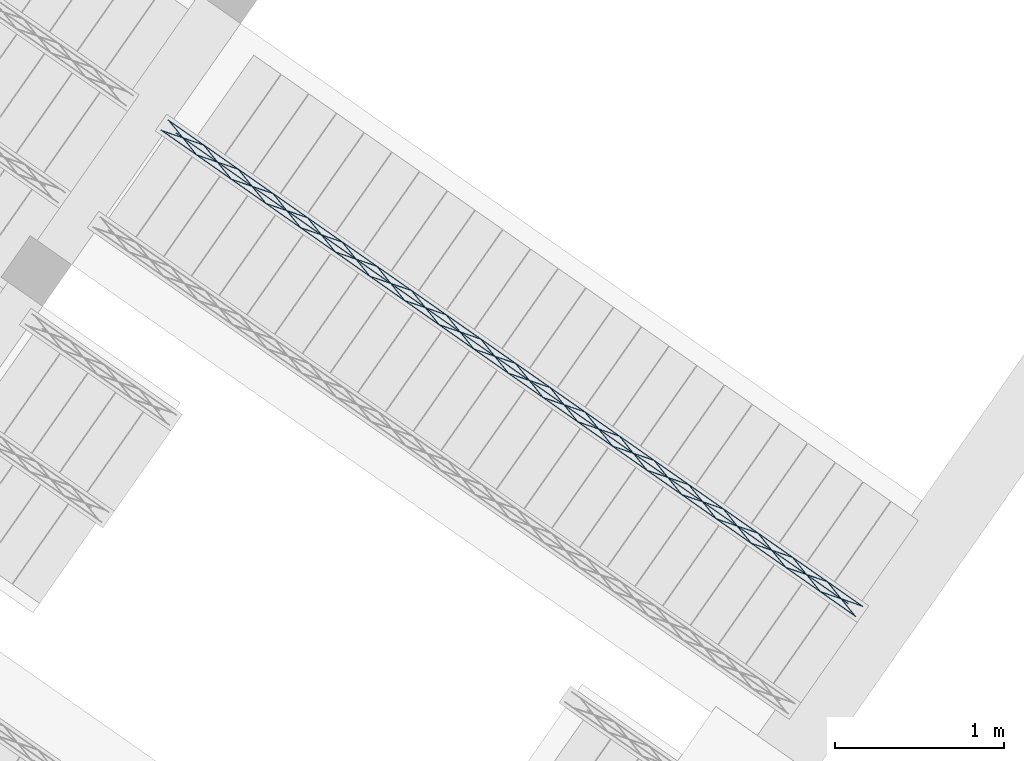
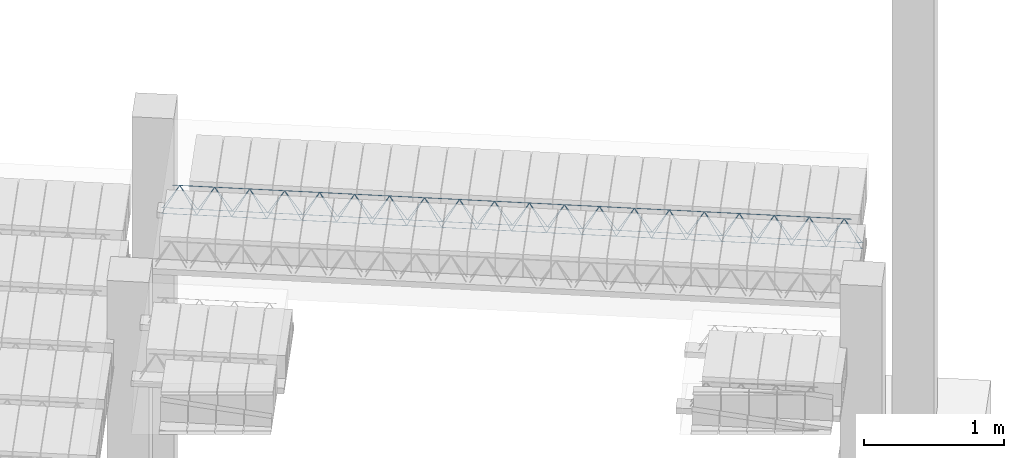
# One storey, part 48 of 80: 1 member.
"""IFC2X3 building model written with IfcOpenShell, lengths in metres."""

from ifc_helpers import new_model, entity, si_unit, converted_unit, derived_unit, direction, frame, origin, origin_2d_with_axis, place, context, subcontext, project, spatial, circle, extrude, type_object, element, save


model = new_model("IFC2X3")

# Units and contexts
model_context = context("Model", 3, precision=1e-05, world=origin(), true_north=direction((6.123031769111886e-17, 1.0)))
body_context = subcontext(model_context, "Body", "Model", "MODEL_VIEW")
ifc_project = project(units=[si_unit("LENGTHUNIT", "METRE"), si_unit("AREAUNIT", "SQUARE_METRE"), si_unit("VOLUMEUNIT", "CUBIC_METRE"), converted_unit("PLANEANGLEUNIT", "DEGREE", entity("IfcPlaneAngleMeasure", 0.017453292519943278), si_unit("PLANEANGLEUNIT", "RADIAN"), dimensions=[0, 0, 0, 0, 0, 0, 0]), si_unit("MASSUNIT", "GRAM", prefix="KILO"), derived_unit("MASSDENSITYUNIT", [(si_unit("MASSUNIT", "GRAM", prefix="KILO"), 1), (si_unit("LENGTHUNIT", "METRE"), -3)]), derived_unit("IONCONCENTRATIONUNIT", [(si_unit("MASSUNIT", "GRAM", prefix="KILO"), 1), (si_unit("LENGTHUNIT", "METRE"), -3)]), derived_unit("MOMENTOFINERTIAUNIT", [(si_unit("LENGTHUNIT", "METRE"), 4)]), si_unit("TIMEUNIT", "SECOND"), si_unit("FREQUENCYUNIT", "HERTZ"), si_unit("THERMODYNAMICTEMPERATUREUNIT", "DEGREE_CELSIUS"), derived_unit("THERMALTRANSMITTANCEUNIT", [(si_unit("MASSUNIT", "GRAM", prefix="KILO"), 1), (si_unit("THERMODYNAMICTEMPERATUREUNIT", "KELVIN"), -1), (si_unit("TIMEUNIT", "SECOND"), -3)]), derived_unit("THERMALCONDUCTANCEUNIT", [(si_unit("MASSUNIT", "GRAM", prefix="KILO"), 1), (si_unit("THERMODYNAMICTEMPERATUREUNIT", "KELVIN"), -1), (si_unit("TIMEUNIT", "SECOND"), -3), (si_unit("LENGTHUNIT", "METRE"), 1)]), derived_unit("VOLUMETRICFLOWRATEUNIT", [(si_unit("LENGTHUNIT", "METRE", prefix="DECI"), 3), (si_unit("TIMEUNIT", "SECOND"), -1)]), derived_unit("MASSFLOWRATEUNIT", [(si_unit("MASSUNIT", "GRAM", prefix="KILO"), 1), (si_unit("TIMEUNIT", "SECOND"), -1)]), derived_unit("ROTATIONALFREQUENCYUNIT", [(si_unit("TIMEUNIT", "SECOND"), -1)]), si_unit("ELECTRICCURRENTUNIT", "AMPERE"), si_unit("ELECTRICVOLTAGEUNIT", "VOLT"), si_unit("POWERUNIT", "WATT"), si_unit("FORCEUNIT", "NEWTON", prefix="KILO"), si_unit("ILLUMINANCEUNIT", "LUX"), si_unit("LUMINOUSFLUXUNIT", "LUMEN"), si_unit("LUMINOUSINTENSITYUNIT", "CANDELA"), si_unit("ENERGYUNIT", "JOULE"), derived_unit("USERDEFINED", [(si_unit("MASSUNIT", "GRAM", prefix="KILO"), -1), (si_unit("LENGTHUNIT", "METRE"), -2), (si_unit("TIMEUNIT", "SECOND"), 3), (si_unit("LUMINOUSFLUXUNIT", "LUMEN"), 1)]), derived_unit("USERDEFINED", [(si_unit("MASSUNIT", "GRAM", prefix="KILO"), 1), (si_unit("TIMEUNIT", "SECOND"), -3), (si_unit("LENGTHUNIT", "METRE"), 3), (si_unit("ELECTRICCURRENTUNIT", "AMPERE"), -2)]), derived_unit("SOUNDPOWERUNIT", [(si_unit("MASSUNIT", "GRAM", prefix="KILO"), 1), (si_unit("TIMEUNIT", "SECOND"), -3), (si_unit("LENGTHUNIT", "METRE"), 2)]), derived_unit("SOUNDPRESSUREUNIT", [(si_unit("MASSUNIT", "GRAM", prefix="KILO"), 1), (si_unit("LENGTHUNIT", "METRE"), -1), (si_unit("TIMEUNIT", "SECOND"), -2)]), derived_unit("LINEARVELOCITYUNIT", [(si_unit("LENGTHUNIT", "METRE"), 1), (si_unit("TIMEUNIT", "SECOND"), -1)]), si_unit("PRESSUREUNIT", "PASCAL"), derived_unit("USERDEFINED", [(si_unit("MASSUNIT", "GRAM", prefix="KILO"), 1), (si_unit("LENGTHUNIT", "METRE"), -2), (si_unit("TIMEUNIT", "SECOND"), -2)]), derived_unit("LINEARFORCEUNIT", [(si_unit("MASSUNIT", "GRAM", prefix="KILO"), 1), (si_unit("TIMEUNIT", "SECOND"), -2)]), derived_unit("PLANARFORCEUNIT", [(si_unit("MASSUNIT", "GRAM", prefix="KILO"), 1), (si_unit("LENGTHUNIT", "METRE"), -1), (si_unit("TIMEUNIT", "SECOND"), -2)]), derived_unit("SPECIFICHEATCAPACITYUNIT", [(si_unit("THERMODYNAMICTEMPERATUREUNIT", "KELVIN"), -1), (si_unit("LENGTHUNIT", "METRE"), 2), (si_unit("TIMEUNIT", "SECOND"), -2)]), derived_unit("HEATFLUXDENSITYUNIT", [(si_unit("MASSUNIT", "GRAM", prefix="KILO"), 1), (si_unit("TIMEUNIT", "SECOND"), -3)]), derived_unit("HEATINGVALUEUNIT", [(si_unit("LENGTHUNIT", "METRE"), 2), (si_unit("TIMEUNIT", "SECOND"), -2)]), derived_unit("VAPORPERMEABILITYUNIT", [(si_unit("LENGTHUNIT", "METRE"), -1), (si_unit("TIMEUNIT", "SECOND"), 1)]), derived_unit("DYNAMICVISCOSITYUNIT", [(si_unit("MASSUNIT", "GRAM", prefix="KILO"), 1), (si_unit("TIMEUNIT", "SECOND"), -1), (si_unit("LENGTHUNIT", "METRE"), -1)]), derived_unit("THERMALEXPANSIONCOEFFICIENTUNIT", [(si_unit("THERMODYNAMICTEMPERATUREUNIT", "KELVIN"), -1)]), derived_unit("MODULUSOFELASTICITYUNIT", [(si_unit("MASSUNIT", "GRAM", prefix="KILO"), 1), (si_unit("LENGTHUNIT", "METRE"), -1), (si_unit("TIMEUNIT", "SECOND"), -2)]), derived_unit("ISOTHERMALMOISTURECAPACITYUNIT", [(si_unit("MASSUNIT", "GRAM", prefix="KILO"), -1), (si_unit("LENGTHUNIT", "METRE"), 3)]), derived_unit("MOISTUREDIFFUSIVITYUNIT", [(si_unit("TIMEUNIT", "SECOND"), -1), (si_unit("LENGTHUNIT", "METRE"), 2)]), derived_unit("MASSPERLENGTHUNIT", [(si_unit("MASSUNIT", "GRAM", prefix="KILO"), 1), (si_unit("LENGTHUNIT", "METRE"), -1)]), derived_unit("THERMALRESISTANCEUNIT", [(si_unit("MASSUNIT", "GRAM", prefix="KILO"), -1), (si_unit("TIMEUNIT", "SECOND"), 3), (si_unit("THERMODYNAMICTEMPERATUREUNIT", "KELVIN"), 1)]), derived_unit("ACCELERATIONUNIT", [(si_unit("LENGTHUNIT", "METRE"), 1), (si_unit("TIMEUNIT", "SECOND"), -2)]), derived_unit("ANGULARVELOCITYUNIT", [(si_unit("TIMEUNIT", "SECOND"), -1), (si_unit("PLANEANGLEUNIT", "RADIAN"), 1)]), derived_unit("LINEARSTIFFNESSUNIT", [(si_unit("MASSUNIT", "GRAM", prefix="KILO"), 1), (si_unit("TIMEUNIT", "SECOND"), -2)]), derived_unit("WARPINGCONSTANTUNIT", [(si_unit("LENGTHUNIT", "METRE"), 6)]), derived_unit("LINEARMOMENTUNIT", [(si_unit("MASSUNIT", "GRAM", prefix="KILO"), 1), (si_unit("LENGTHUNIT", "METRE"), 1), (si_unit("TIMEUNIT", "SECOND"), -2)]), derived_unit("TORQUEUNIT", [(si_unit("MASSUNIT", "GRAM", prefix="KILO"), 1), (si_unit("LENGTHUNIT", "METRE"), 2), (si_unit("TIMEUNIT", "SECOND"), -2)])], contexts=[model_context])

# Site, building, storey
site_placement = place(None, origin())
site = spatial("IfcSite", under=ifc_project, at=site_placement, Name="Default", CompositionType="ELEMENT")
building_placement = place(site_placement, origin())
building = spatial("IfcBuilding", under=site, at=building_placement, CompositionType="ELEMENT")
storey_placement = place(building_placement, frame((0.0, 0.0, 95.94)))
storey = spatial("IfcBuildingStorey", under=building, at=storey_placement, Name="PB", CompositionType="ELEMENT", Elevation=95.94)

# Member
member_type = type_object("IfcMemberType", Name="Celosía (Vigueta 2 - Paño 15)", PredefinedType="NOTDEFINED")
member_placement = place(storey_placement, origin())
element("IfcMember", 1, at=member_placement, inside=storey, type_object=member_type, Name="Celosía (Vigueta 2 - Paño 15)", context=body_context, shape_type="SweptSolid", body=[
    extrude(circle(Radius=0.0025, at=origin_2d_with_axis()), frame((10.675336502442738, 5.482694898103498, 3.3049999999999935), z_axis=(-0.8191520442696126, 0.5735764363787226, 0.0), x_axis=(-0.5735764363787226, -0.8191520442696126, 0.0)), (0.0, 0.0, 1.0), 5.017554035),
    extrude(circle(Radius=0.0025, at=origin_2d_with_axis()), frame((6.654471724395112, 8.342082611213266, 3.5299999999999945), z_axis=(0.8191520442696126, -0.5735764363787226, 0.0), x_axis=(-0.5735764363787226, -0.8191520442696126, 0.0)), (0.0, 0.0, 1.0), 4.849999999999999),
    extrude(circle(Radius=0.0025, at=origin_2d_with_axis()), frame((10.668146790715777, 5.487729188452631, 3.3049999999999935), z_axis=(-0.3145304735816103, 0.389334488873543, 0.8657304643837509), x_axis=(-0.7778747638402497, -0.6284193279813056, 0.0)), (0.0, 0.0, 1.0), 0.2598961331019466),
    extrude(circle(Radius=0.0025, at=origin_2d_with_axis()), frame((10.46335877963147, 5.631123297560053, 3.3049999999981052), z_axis=(0.47343050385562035, -0.1624017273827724, 0.8657304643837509), x_axis=(-0.3244721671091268, -0.9458952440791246, 0.0)), (0.0, 0.0, 1.0), 0.25989613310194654),
    extrude(circle(Radius=0.0025, at=origin_2d_with_axis()), frame((10.463358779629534, 5.631123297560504, 3.3049999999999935), z_axis=(-0.3145304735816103, 0.389334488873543, 0.8657304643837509), x_axis=(-0.7778747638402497, -0.6284193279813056, 0.0)), (0.0, 0.0, 1.0), 0.2598961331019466),
    extrude(circle(Radius=0.0025, at=origin_2d_with_axis()), frame((10.258570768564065, 5.774517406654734, 3.3049999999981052), z_axis=(0.47343050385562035, -0.1624017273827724, 0.8657304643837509), x_axis=(-0.3244721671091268, -0.9458952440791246, 0.0)), (0.0, 0.0, 1.0), 0.25989613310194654),
    extrude(circle(Radius=0.0025, at=origin_2d_with_axis()), frame((10.258570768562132, 5.7745174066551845, 3.3049999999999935), z_axis=(-0.3145304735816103, 0.389334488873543, 0.8657304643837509), x_axis=(-0.7778747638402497, -0.6284193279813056, 0.0)), (0.0, 0.0, 1.0), 0.2598961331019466),
    extrude(circle(Radius=0.0025, at=origin_2d_with_axis()), frame((10.053782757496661, 5.917911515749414, 3.3049999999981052), z_axis=(0.47343050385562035, -0.1624017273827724, 0.8657304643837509), x_axis=(-0.3244721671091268, -0.9458952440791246, 0.0)), (0.0, 0.0, 1.0), 0.25989613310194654),
    extrude(circle(Radius=0.0025, at=origin_2d_with_axis()), frame((10.053782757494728, 5.917911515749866, 3.3049999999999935), z_axis=(-0.3145304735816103, 0.389334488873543, 0.8657304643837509), x_axis=(-0.7778747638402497, -0.6284193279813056, 0.0)), (0.0, 0.0, 1.0), 0.2598961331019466),
    extrude(circle(Radius=0.0025, at=origin_2d_with_axis()), frame((9.848994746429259, 6.061305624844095, 3.3049999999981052), z_axis=(0.47343050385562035, -0.1624017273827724, 0.8657304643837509), x_axis=(-0.3244721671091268, -0.9458952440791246, 0.0)), (0.0, 0.0, 1.0), 0.25989613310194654),
    extrude(circle(Radius=0.0025, at=origin_2d_with_axis()), frame((9.848994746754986, 6.061305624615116, 3.3049999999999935), z_axis=(-0.3145304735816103, 0.389334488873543, 0.8657304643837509), x_axis=(-0.7778747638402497, -0.6284193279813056, 0.0)), (0.0, 0.0, 1.0), 0.2598961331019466),
    extrude(circle(Radius=0.0025, at=origin_2d_with_axis()), frame((9.644206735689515, 6.204699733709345, 3.3049999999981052), z_axis=(0.47343050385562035, -0.1624017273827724, 0.8657304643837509), x_axis=(-0.3244721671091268, -0.9458952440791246, 0.0)), (0.0, 0.0, 1.0), 0.25989613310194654),
    extrude(circle(Radius=0.0025, at=origin_2d_with_axis()), frame((9.644206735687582, 6.204699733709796, 3.3049999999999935), z_axis=(-0.3145304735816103, 0.389334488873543, 0.8657304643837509), x_axis=(-0.7778747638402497, -0.6284193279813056, 0.0)), (0.0, 0.0, 1.0), 0.2598961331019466),
    extrude(circle(Radius=0.0025, at=origin_2d_with_axis()), frame((9.439418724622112, 6.348093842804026, 3.3049999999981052), z_axis=(0.47343050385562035, -0.1624017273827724, 0.8657304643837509), x_axis=(-0.3244721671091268, -0.9458952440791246, 0.0)), (0.0, 0.0, 1.0), 0.25989613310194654),
    extrude(circle(Radius=0.0025, at=origin_2d_with_axis()), frame((9.439418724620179, 6.348093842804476, 3.3049999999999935), z_axis=(-0.3145304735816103, 0.389334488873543, 0.8657304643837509), x_axis=(-0.7778747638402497, -0.6284193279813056, 0.0)), (0.0, 0.0, 1.0), 0.2598961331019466),
    extrude(circle(Radius=0.0025, at=origin_2d_with_axis()), frame((9.23463071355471, 6.491487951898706, 3.3049999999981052), z_axis=(0.47343050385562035, -0.1624017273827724, 0.8657304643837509), x_axis=(-0.3244721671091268, -0.9458952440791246, 0.0)), (0.0, 0.0, 1.0), 0.25989613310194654),
    extrude(circle(Radius=0.0025, at=origin_2d_with_axis()), frame((9.234630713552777, 6.491487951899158, 3.3049999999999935), z_axis=(-0.3145304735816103, 0.389334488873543, 0.8657304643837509), x_axis=(-0.7778747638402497, -0.6284193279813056, 0.0)), (0.0, 0.0, 1.0), 0.2598961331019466),
    extrude(circle(Radius=0.0025, at=origin_2d_with_axis()), frame((9.029842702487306, 6.6348820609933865, 3.3049999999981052), z_axis=(0.47343050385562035, -0.1624017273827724, 0.8657304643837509), x_axis=(-0.3244721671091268, -0.9458952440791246, 0.0)), (0.0, 0.0, 1.0), 0.25989613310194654),
    extrude(circle(Radius=0.0025, at=origin_2d_with_axis()), frame((9.029842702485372, 6.634882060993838, 3.3049999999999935), z_axis=(-0.3145304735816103, 0.389334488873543, 0.8657304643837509), x_axis=(-0.7778747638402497, -0.6284193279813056, 0.0)), (0.0, 0.0, 1.0), 0.2598961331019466),
    extrude(circle(Radius=0.0025, at=origin_2d_with_axis()), frame((8.825054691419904, 6.778276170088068, 3.3049999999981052), z_axis=(0.47343050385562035, -0.1624017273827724, 0.8657304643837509), x_axis=(-0.3244721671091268, -0.9458952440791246, 0.0)), (0.0, 0.0, 1.0), 0.25989613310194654),
    extrude(circle(Radius=0.0025, at=origin_2d_with_axis()), frame((8.82505469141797, 6.778276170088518, 3.3049999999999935), z_axis=(-0.3145304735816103, 0.389334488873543, 0.8657304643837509), x_axis=(-0.7778747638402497, -0.6284193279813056, 0.0)), (0.0, 0.0, 1.0), 0.2598961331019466),
    extrude(circle(Radius=0.0025, at=origin_2d_with_axis()), frame((8.620266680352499, 6.921670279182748, 3.3049999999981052), z_axis=(0.47343050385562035, -0.1624017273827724, 0.8657304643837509), x_axis=(-0.3244721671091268, -0.9458952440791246, 0.0)), (0.0, 0.0, 1.0), 0.25989613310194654),
    extrude(circle(Radius=0.0025, at=origin_2d_with_axis()), frame((8.620266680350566, 6.921670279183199, 3.3049999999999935), z_axis=(-0.3145304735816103, 0.389334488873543, 0.8657304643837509), x_axis=(-0.7778747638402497, -0.6284193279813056, 0.0)), (0.0, 0.0, 1.0), 0.2598961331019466),
    extrude(circle(Radius=0.0025, at=origin_2d_with_axis()), frame((8.415478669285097, 7.065064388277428, 3.3049999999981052), z_axis=(0.47343050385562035, -0.1624017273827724, 0.8657304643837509), x_axis=(-0.3244721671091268, -0.9458952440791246, 0.0)), (0.0, 0.0, 1.0), 0.25989613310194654),
    extrude(circle(Radius=0.0025, at=origin_2d_with_axis()), frame((8.415478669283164, 7.06506438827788, 3.3049999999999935), z_axis=(-0.3145304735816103, 0.389334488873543, 0.8657304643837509), x_axis=(-0.7778747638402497, -0.6284193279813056, 0.0)), (0.0, 0.0, 1.0), 0.2598961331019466),
    extrude(circle(Radius=0.0025, at=origin_2d_with_axis()), frame((8.210690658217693, 7.20845849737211, 3.3049999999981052), z_axis=(0.47343050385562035, -0.1624017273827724, 0.8657304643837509), x_axis=(-0.3244721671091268, -0.9458952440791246, 0.0)), (0.0, 0.0, 1.0), 0.25989613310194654),
    extrude(circle(Radius=0.0025, at=origin_2d_with_axis()), frame((8.21069065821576, 7.20845849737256, 3.3049999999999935), z_axis=(-0.3145304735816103, 0.389334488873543, 0.8657304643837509), x_axis=(-0.7778747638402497, -0.6284193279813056, 0.0)), (0.0, 0.0, 1.0), 0.2598961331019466),
    extrude(circle(Radius=0.0025, at=origin_2d_with_axis()), frame((8.00590264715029, 7.35185260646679, 3.3049999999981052), z_axis=(0.47343050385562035, -0.1624017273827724, 0.8657304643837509), x_axis=(-0.3244721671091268, -0.9458952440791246, 0.0)), (0.0, 0.0, 1.0), 0.25989613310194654),
    extrude(circle(Radius=0.0025, at=origin_2d_with_axis()), frame((8.005902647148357, 7.351852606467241, 3.3049999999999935), z_axis=(-0.3145304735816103, 0.389334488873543, 0.8657304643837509), x_axis=(-0.7778747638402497, -0.6284193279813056, 0.0)), (0.0, 0.0, 1.0), 0.2598961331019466),
    extrude(circle(Radius=0.0025, at=origin_2d_with_axis()), frame((7.801114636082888, 7.49524671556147, 3.3049999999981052), z_axis=(0.47343050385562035, -0.1624017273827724, 0.8657304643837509), x_axis=(-0.3244721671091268, -0.9458952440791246, 0.0)), (0.0, 0.0, 1.0), 0.25989613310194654),
    extrude(circle(Radius=0.0025, at=origin_2d_with_axis()), frame((7.801114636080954, 7.4952467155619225, 3.3049999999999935), z_axis=(-0.3145304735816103, 0.389334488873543, 0.8657304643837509), x_axis=(-0.7778747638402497, -0.6284193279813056, 0.0)), (0.0, 0.0, 1.0), 0.2598961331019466),
    extrude(circle(Radius=0.0025, at=origin_2d_with_axis()), frame((7.596326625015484, 7.638640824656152, 3.3049999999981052), z_axis=(0.47343050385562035, -0.1624017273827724, 0.8657304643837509), x_axis=(-0.3244721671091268, -0.9458952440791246, 0.0)), (0.0, 0.0, 1.0), 0.25989613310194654),
    extrude(circle(Radius=0.0025, at=origin_2d_with_axis()), frame((7.5963266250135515, 7.638640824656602, 3.3049999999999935), z_axis=(-0.3145304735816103, 0.389334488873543, 0.8657304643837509), x_axis=(-0.7778747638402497, -0.6284193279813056, 0.0)), (0.0, 0.0, 1.0), 0.2598961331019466),
    extrude(circle(Radius=0.0025, at=origin_2d_with_axis()), frame((7.391538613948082, 7.782034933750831, 3.3049999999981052), z_axis=(0.47343050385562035, -0.1624017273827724, 0.8657304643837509), x_axis=(-0.3244721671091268, -0.9458952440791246, 0.0)), (0.0, 0.0, 1.0), 0.25989613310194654),
    extrude(circle(Radius=0.0025, at=origin_2d_with_axis()), frame((7.391538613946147, 7.782034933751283, 3.3049999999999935), z_axis=(-0.3145304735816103, 0.389334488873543, 0.8657304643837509), x_axis=(-0.7778747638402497, -0.6284193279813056, 0.0)), (0.0, 0.0, 1.0), 0.2598961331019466),
    extrude(circle(Radius=0.0025, at=origin_2d_with_axis()), frame((7.186750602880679, 7.925429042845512, 3.3049999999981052), z_axis=(0.47343050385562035, -0.1624017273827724, 0.8657304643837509), x_axis=(-0.3244721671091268, -0.9458952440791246, 0.0)), (0.0, 0.0, 1.0), 0.25989613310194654),
    extrude(circle(Radius=0.0025, at=origin_2d_with_axis()), frame((7.186750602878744, 7.925429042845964, 3.3049999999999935), z_axis=(-0.3145304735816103, 0.389334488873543, 0.8657304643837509), x_axis=(-0.7778747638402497, -0.6284193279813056, 0.0)), (0.0, 0.0, 1.0), 0.2598961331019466),
    extrude(circle(Radius=0.0025, at=origin_2d_with_axis()), frame((6.981962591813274, 8.068823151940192, 3.3049999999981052), z_axis=(0.47343050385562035, -0.1624017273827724, 0.8657304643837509), x_axis=(-0.3244721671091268, -0.9458952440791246, 0.0)), (0.0, 0.0, 1.0), 0.25989613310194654),
    extrude(circle(Radius=0.0025, at=origin_2d_with_axis()), frame((6.9819625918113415, 8.068823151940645, 3.3049999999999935), z_axis=(-0.3145304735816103, 0.389334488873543, 0.8657304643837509), x_axis=(-0.7778747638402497, -0.6284193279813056, 0.0)), (0.0, 0.0, 1.0), 0.2598961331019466),
    extrude(circle(Radius=0.0025, at=origin_2d_with_axis()), frame((6.777174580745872, 8.212217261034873, 3.3049999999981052), z_axis=(0.47343050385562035, -0.1624017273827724, 0.8657304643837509), x_axis=(-0.3244721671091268, -0.9458952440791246, 0.0)), (0.0, 0.0, 1.0), 0.25989613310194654),
    extrude(circle(Radius=0.0025, at=origin_2d_with_axis()), frame((6.777174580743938, 8.212217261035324, 3.3049999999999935), z_axis=(-0.3145304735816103, 0.389334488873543, 0.8657304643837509), x_axis=(-0.7778747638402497, -0.6284193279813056, 0.0)), (0.0, 0.0, 1.0), 0.2598961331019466),
    extrude(circle(Radius=0.0025, at=origin_2d_with_axis()), frame((6.572386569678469, 8.355611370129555, 3.3049999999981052), z_axis=(0.47343050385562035, -0.1624017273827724, 0.8657304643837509), x_axis=(-0.3244721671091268, -0.9458952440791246, 0.0)), (0.0, 0.0, 1.0), 0.25989613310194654),
    extrude(circle(Radius=0.0025, at=origin_2d_with_axis()), frame((6.606494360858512, 8.41962460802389, 3.3049999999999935), z_axis=(0.8191520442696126, -0.5735764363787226, 0.0), x_axis=(-0.5735764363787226, -0.8191520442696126, 0.0)), (0.0, 0.0, 1.0), 5.017554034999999),
    extrude(circle(Radius=0.0025, at=origin_2d_with_axis()), frame((10.709444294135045, 5.546708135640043, 3.3049999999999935), z_axis=(-0.47343050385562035, 0.1624017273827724, 0.8657304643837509), x_axis=(-0.3244721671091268, -0.9458952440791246, 0.0)), (0.0, 0.0, 1.0), 0.25989613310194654),
    extrude(circle(Radius=0.0025, at=origin_2d_with_axis()), frame((10.50465628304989, 5.690102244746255, 3.3049999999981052), z_axis=(0.3145304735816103, -0.389334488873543, 0.8657304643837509), x_axis=(-0.7778747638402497, -0.6284193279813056, 0.0)), (0.0, 0.0, 1.0), 0.2598961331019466),
    extrude(circle(Radius=0.0025, at=origin_2d_with_axis()), frame((10.504656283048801, 5.690102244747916, 3.3049999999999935), z_axis=(-0.47343050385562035, 0.1624017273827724, 0.8657304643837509), x_axis=(-0.3244721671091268, -0.9458952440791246, 0.0)), (0.0, 0.0, 1.0), 0.25989613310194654),
    extrude(circle(Radius=0.0025, at=origin_2d_with_axis()), frame((10.299868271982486, 5.833496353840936, 3.3049999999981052), z_axis=(0.3145304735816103, -0.389334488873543, 0.8657304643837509), x_axis=(-0.7778747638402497, -0.6284193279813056, 0.0)), (0.0, 0.0, 1.0), 0.2598961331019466),
    extrude(circle(Radius=0.0025, at=origin_2d_with_axis()), frame((10.2998682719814, 5.833496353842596, 3.3049999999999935), z_axis=(-0.47343050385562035, 0.1624017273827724, 0.8657304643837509), x_axis=(-0.3244721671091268, -0.9458952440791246, 0.0)), (0.0, 0.0, 1.0), 0.25989613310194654),
    extrude(circle(Radius=0.0025, at=origin_2d_with_axis()), frame((10.095080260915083, 5.976890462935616, 3.3049999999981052), z_axis=(0.3145304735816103, -0.389334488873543, 0.8657304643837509), x_axis=(-0.7778747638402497, -0.6284193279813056, 0.0)), (0.0, 0.0, 1.0), 0.2598961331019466),
    extrude(circle(Radius=0.0025, at=origin_2d_with_axis()), frame((10.095080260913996, 5.976890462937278, 3.3049999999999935), z_axis=(-0.47343050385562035, 0.1624017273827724, 0.8657304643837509), x_axis=(-0.3244721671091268, -0.9458952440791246, 0.0)), (0.0, 0.0, 1.0), 0.25989613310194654),
    extrude(circle(Radius=0.0025, at=origin_2d_with_axis()), frame((9.89029224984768, 6.120284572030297, 3.3049999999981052), z_axis=(0.3145304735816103, -0.389334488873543, 0.8657304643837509), x_axis=(-0.7778747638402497, -0.6284193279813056, 0.0)), (0.0, 0.0, 1.0), 0.2598961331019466),
    extrude(circle(Radius=0.0025, at=origin_2d_with_axis()), frame((9.890292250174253, 6.120284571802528, 3.3049999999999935), z_axis=(-0.47343050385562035, 0.1624017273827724, 0.8657304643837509), x_axis=(-0.3244721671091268, -0.9458952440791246, 0.0)), (0.0, 0.0, 1.0), 0.25989613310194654),
    extrude(circle(Radius=0.0025, at=origin_2d_with_axis()), frame((9.685504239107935, 6.263678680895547, 3.3049999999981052), z_axis=(0.3145304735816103, -0.389334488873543, 0.8657304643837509), x_axis=(-0.7778747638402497, -0.6284193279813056, 0.0)), (0.0, 0.0, 1.0), 0.2598961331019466),
    extrude(circle(Radius=0.0025, at=origin_2d_with_axis()), frame((9.68550423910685, 6.263678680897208, 3.3049999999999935), z_axis=(-0.47343050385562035, 0.1624017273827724, 0.8657304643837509), x_axis=(-0.3244721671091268, -0.9458952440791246, 0.0)), (0.0, 0.0, 1.0), 0.25989613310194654),
    extrude(circle(Radius=0.0025, at=origin_2d_with_axis()), frame((9.480716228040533, 6.407072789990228, 3.3049999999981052), z_axis=(0.3145304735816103, -0.389334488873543, 0.8657304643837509), x_axis=(-0.7778747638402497, -0.6284193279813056, 0.0)), (0.0, 0.0, 1.0), 0.2598961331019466),
    extrude(circle(Radius=0.0025, at=origin_2d_with_axis()), frame((9.480716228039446, 6.407072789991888, 3.3049999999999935), z_axis=(-0.47343050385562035, 0.1624017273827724, 0.8657304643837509), x_axis=(-0.3244721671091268, -0.9458952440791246, 0.0)), (0.0, 0.0, 1.0), 0.25989613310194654),
    extrude(circle(Radius=0.0025, at=origin_2d_with_axis()), frame((9.27592821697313, 6.550466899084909, 3.3049999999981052), z_axis=(0.3145304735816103, -0.389334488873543, 0.8657304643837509), x_axis=(-0.7778747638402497, -0.6284193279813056, 0.0)), (0.0, 0.0, 1.0), 0.2598961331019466),
    extrude(circle(Radius=0.0025, at=origin_2d_with_axis()), frame((9.275928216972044, 6.55046689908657, 3.3049999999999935), z_axis=(-0.47343050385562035, 0.1624017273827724, 0.8657304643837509), x_axis=(-0.3244721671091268, -0.9458952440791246, 0.0)), (0.0, 0.0, 1.0), 0.25989613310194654),
    extrude(circle(Radius=0.0025, at=origin_2d_with_axis()), frame((9.071140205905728, 6.693861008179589, 3.3049999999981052), z_axis=(0.3145304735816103, -0.389334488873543, 0.8657304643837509), x_axis=(-0.7778747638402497, -0.6284193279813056, 0.0)), (0.0, 0.0, 1.0), 0.2598961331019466),
    extrude(circle(Radius=0.0025, at=origin_2d_with_axis()), frame((9.07114020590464, 6.6938610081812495, 3.3049999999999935), z_axis=(-0.47343050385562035, 0.1624017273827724, 0.8657304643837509), x_axis=(-0.3244721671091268, -0.9458952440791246, 0.0)), (0.0, 0.0, 1.0), 0.25989613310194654),
    extrude(circle(Radius=0.0025, at=origin_2d_with_axis()), frame((8.866352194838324, 6.83725511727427, 3.3049999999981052), z_axis=(0.3145304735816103, -0.389334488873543, 0.8657304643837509), x_axis=(-0.7778747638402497, -0.6284193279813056, 0.0)), (0.0, 0.0, 1.0), 0.2598961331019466),
    extrude(circle(Radius=0.0025, at=origin_2d_with_axis()), frame((8.866352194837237, 6.83725511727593, 3.3049999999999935), z_axis=(-0.47343050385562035, 0.1624017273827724, 0.8657304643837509), x_axis=(-0.3244721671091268, -0.9458952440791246, 0.0)), (0.0, 0.0, 1.0), 0.25989613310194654),
    extrude(circle(Radius=0.0025, at=origin_2d_with_axis()), frame((8.66156418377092, 6.980649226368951, 3.3049999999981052), z_axis=(0.3145304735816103, -0.389334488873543, 0.8657304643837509), x_axis=(-0.7778747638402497, -0.6284193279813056, 0.0)), (0.0, 0.0, 1.0), 0.2598961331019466),
    extrude(circle(Radius=0.0025, at=origin_2d_with_axis()), frame((8.661564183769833, 6.980649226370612, 3.3049999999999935), z_axis=(-0.47343050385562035, 0.1624017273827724, 0.8657304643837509), x_axis=(-0.3244721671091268, -0.9458952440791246, 0.0)), (0.0, 0.0, 1.0), 0.25989613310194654),
    extrude(circle(Radius=0.0025, at=origin_2d_with_axis()), frame((8.456776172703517, 7.1240433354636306, 3.3049999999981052), z_axis=(0.3145304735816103, -0.389334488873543, 0.8657304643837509), x_axis=(-0.7778747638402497, -0.6284193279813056, 0.0)), (0.0, 0.0, 1.0), 0.2598961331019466),
    extrude(circle(Radius=0.0025, at=origin_2d_with_axis()), frame((8.456776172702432, 7.124043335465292, 3.3049999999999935), z_axis=(-0.47343050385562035, 0.1624017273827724, 0.8657304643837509), x_axis=(-0.3244721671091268, -0.9458952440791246, 0.0)), (0.0, 0.0, 1.0), 0.25989613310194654),
    extrude(circle(Radius=0.0025, at=origin_2d_with_axis()), frame((8.251988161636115, 7.267437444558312, 3.3049999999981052), z_axis=(0.3145304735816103, -0.389334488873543, 0.8657304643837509), x_axis=(-0.7778747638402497, -0.6284193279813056, 0.0)), (0.0, 0.0, 1.0), 0.2598961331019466),
    extrude(circle(Radius=0.0025, at=origin_2d_with_axis()), frame((8.251988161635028, 7.267437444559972, 3.3049999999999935), z_axis=(-0.47343050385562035, 0.1624017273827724, 0.8657304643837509), x_axis=(-0.3244721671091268, -0.9458952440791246, 0.0)), (0.0, 0.0, 1.0), 0.25989613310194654),
    extrude(circle(Radius=0.0025, at=origin_2d_with_axis()), frame((8.047200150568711, 7.410831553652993, 3.3049999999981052), z_axis=(0.3145304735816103, -0.389334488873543, 0.8657304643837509), x_axis=(-0.7778747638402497, -0.6284193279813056, 0.0)), (0.0, 0.0, 1.0), 0.2598961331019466),
    extrude(circle(Radius=0.0025, at=origin_2d_with_axis()), frame((8.047200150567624, 7.410831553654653, 3.3049999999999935), z_axis=(-0.47343050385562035, 0.1624017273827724, 0.8657304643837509), x_axis=(-0.3244721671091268, -0.9458952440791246, 0.0)), (0.0, 0.0, 1.0), 0.25989613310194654),
    extrude(circle(Radius=0.0025, at=origin_2d_with_axis()), frame((7.842412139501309, 7.5542256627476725, 3.3049999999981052), z_axis=(0.3145304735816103, -0.389334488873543, 0.8657304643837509), x_axis=(-0.7778747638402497, -0.6284193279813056, 0.0)), (0.0, 0.0, 1.0), 0.2598961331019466),
    extrude(circle(Radius=0.0025, at=origin_2d_with_axis()), frame((7.8424121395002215, 7.554225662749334, 3.3049999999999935), z_axis=(-0.47343050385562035, 0.1624017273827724, 0.8657304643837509), x_axis=(-0.3244721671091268, -0.9458952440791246, 0.0)), (0.0, 0.0, 1.0), 0.25989613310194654),
    extrude(circle(Radius=0.0025, at=origin_2d_with_axis()), frame((7.637624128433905, 7.697619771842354, 3.3049999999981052), z_axis=(0.3145304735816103, -0.389334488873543, 0.8657304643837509), x_axis=(-0.7778747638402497, -0.6284193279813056, 0.0)), (0.0, 0.0, 1.0), 0.2598961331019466),
    extrude(circle(Radius=0.0025, at=origin_2d_with_axis()), frame((7.637624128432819, 7.697619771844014, 3.3049999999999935), z_axis=(-0.47343050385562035, 0.1624017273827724, 0.8657304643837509), x_axis=(-0.3244721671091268, -0.9458952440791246, 0.0)), (0.0, 0.0, 1.0), 0.25989613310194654),
    extrude(circle(Radius=0.0025, at=origin_2d_with_axis()), frame((7.432836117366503, 7.841013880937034, 3.3049999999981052), z_axis=(0.3145304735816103, -0.389334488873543, 0.8657304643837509), x_axis=(-0.7778747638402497, -0.6284193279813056, 0.0)), (0.0, 0.0, 1.0), 0.2598961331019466),
    extrude(circle(Radius=0.0025, at=origin_2d_with_axis()), frame((7.432836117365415, 7.841013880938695, 3.3049999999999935), z_axis=(-0.47343050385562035, 0.1624017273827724, 0.8657304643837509), x_axis=(-0.3244721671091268, -0.9458952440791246, 0.0)), (0.0, 0.0, 1.0), 0.25989613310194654),
    extrude(circle(Radius=0.0025, at=origin_2d_with_axis()), frame((7.2280481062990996, 7.984407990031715, 3.3049999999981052), z_axis=(0.3145304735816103, -0.389334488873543, 0.8657304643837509), x_axis=(-0.7778747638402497, -0.6284193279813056, 0.0)), (0.0, 0.0, 1.0), 0.2598961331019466),
    extrude(circle(Radius=0.0025, at=origin_2d_with_axis()), frame((7.228048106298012, 7.984407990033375, 3.3049999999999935), z_axis=(-0.47343050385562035, 0.1624017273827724, 0.8657304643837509), x_axis=(-0.3244721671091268, -0.9458952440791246, 0.0)), (0.0, 0.0, 1.0), 0.25989613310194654),
    extrude(circle(Radius=0.0025, at=origin_2d_with_axis()), frame((7.023260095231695, 8.127802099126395, 3.3049999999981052), z_axis=(0.3145304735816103, -0.389334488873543, 0.8657304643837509), x_axis=(-0.7778747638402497, -0.6284193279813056, 0.0)), (0.0, 0.0, 1.0), 0.2598961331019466),
    extrude(circle(Radius=0.0025, at=origin_2d_with_axis()), frame((7.023260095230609, 8.127802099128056, 3.3049999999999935), z_axis=(-0.47343050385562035, 0.1624017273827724, 0.8657304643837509), x_axis=(-0.3244721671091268, -0.9458952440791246, 0.0)), (0.0, 0.0, 1.0), 0.25989613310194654),
    extrude(circle(Radius=0.0025, at=origin_2d_with_axis()), frame((6.818472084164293, 8.271196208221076, 3.3049999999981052), z_axis=(0.3145304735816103, -0.389334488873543, 0.8657304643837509), x_axis=(-0.7778747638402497, -0.6284193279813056, 0.0)), (0.0, 0.0, 1.0), 0.2598961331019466),
    extrude(circle(Radius=0.0025, at=origin_2d_with_axis()), frame((6.818472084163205, 8.271196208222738, 3.3049999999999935), z_axis=(-0.47343050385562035, 0.1624017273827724, 0.8657304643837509), x_axis=(-0.3244721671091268, -0.9458952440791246, 0.0)), (0.0, 0.0, 1.0), 0.25989613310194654),
    extrude(circle(Radius=0.0025, at=origin_2d_with_axis()), frame((6.6136840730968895, 8.414590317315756, 3.3049999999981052), z_axis=(0.3145304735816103, -0.389334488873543, 0.8657304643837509), x_axis=(-0.7778747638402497, -0.6284193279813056, 0.0)), (0.0, 0.0, 1.0), 0.2598961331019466),
])

save(model, "model.ifc")
